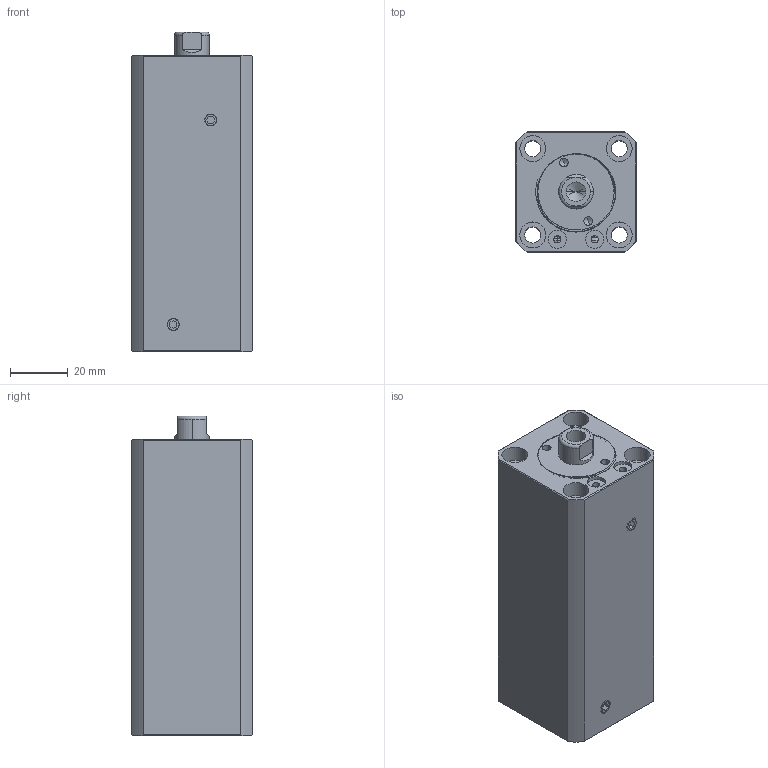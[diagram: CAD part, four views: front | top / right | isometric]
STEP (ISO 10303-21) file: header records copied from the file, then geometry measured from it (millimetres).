
FILE_DESCRIPTION (( 'STEP AP214' ), '1' );
FILE_NAME ('chtb-sdma20x60n_asm.STEP', '2018-05-18T06:10:27', ( '' ), ( '' ), 'SwSTEP 2.0', 'SolidWorks 2016', '' );
FILE_SCHEMA (( 'AUTOMOTIVE_DESIGN' ));
Length unit declared in the file: millimetre
Products named in the file (5): socket set screw flat point_iso_ISO 4026 - M5 x 5-N; QG_3; CHTB-SDMA20X60NHSG; CHTB-SDMA20X60NBT; chtb-sdma20x60n_asm
Assembly tree (5 placements, depth 2):
  chtb-sdma20x60n_asm
    CHTB-SDMA20X60NBT
    CHTB-SDMA20X60NHSG
    QG_3
    socket set screw flat point_iso_ISO 4026 - M5 x 5-N  x2
Bounding box: 42 x 42 x 111 mm (x, y, z)
Volume: 152795.9 mm3; surface area: 45076.7 mm2
Topology: 5 solids, 5 shells, 232 faces, 602 edges, 396 vertices
Faces by surface type: cylinder 111, plane 61, torus 25, bspline 21, cone 14
Entity records: 12042 total; most frequent: CARTESIAN_POINT 6742, ORIENTED_EDGE 1128, DIRECTION 1000, EDGE_CURVE 564, AXIS2_PLACEMENT_3D 415, VERTEX_POINT 376, EDGE_LOOP 256, ADVANCED_FACE 217
